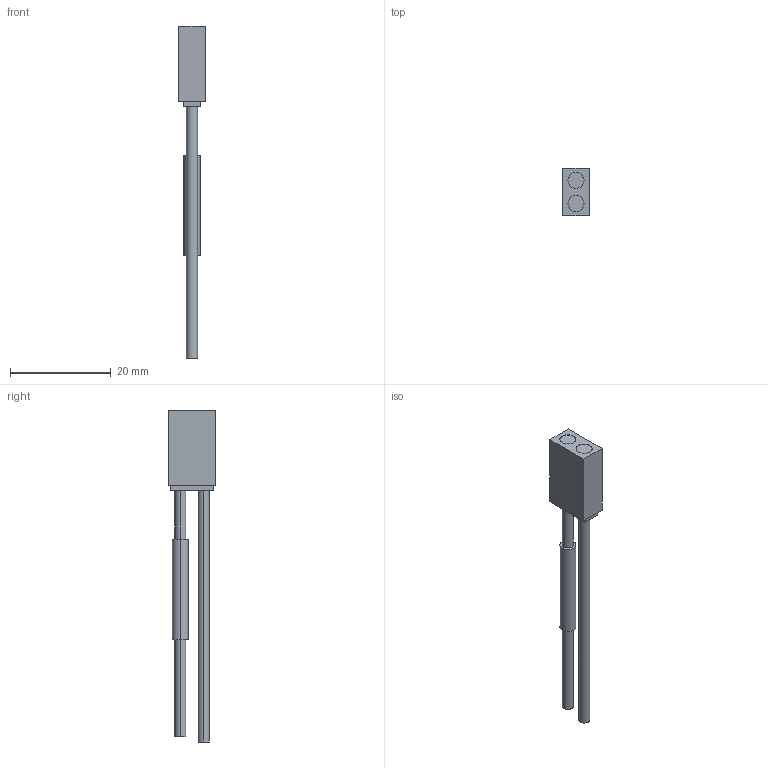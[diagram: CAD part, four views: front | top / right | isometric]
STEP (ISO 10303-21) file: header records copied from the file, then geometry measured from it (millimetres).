
FILE_DESCRIPTION (( 'STEP AP203' ), '1' );
FILE_NAME ('FR-WKZ11.STEP', '2005-09-04T13:37:30', ( '川島良英' ), ( ' ' ), 'SwSTEP 2.0', 'SolidWorks 2004251', '' );
FILE_SCHEMA (( 'CONFIG_CONTROL_DESIGN' ));
Length unit declared in the file: millimetre
Products named in the file (1): FR-WKZ11
Bounding box: 5.2 x 9.5 x 66 mm (x, y, z)
Volume: 1230.6 mm3; surface area: 1321.6 mm2
Topology: 1 solids, 1 shells, 29 faces, 60 edges, 40 vertices
Faces by surface type: plane 17, cylinder 12
Entity records: 855 total; most frequent: DIRECTION 144, CARTESIAN_POINT 130, ORIENTED_EDGE 120, EDGE_CURVE 60, AXIS2_PLACEMENT_3D 54, VERTEX_POINT 40, EDGE_LOOP 36, VECTOR 36
